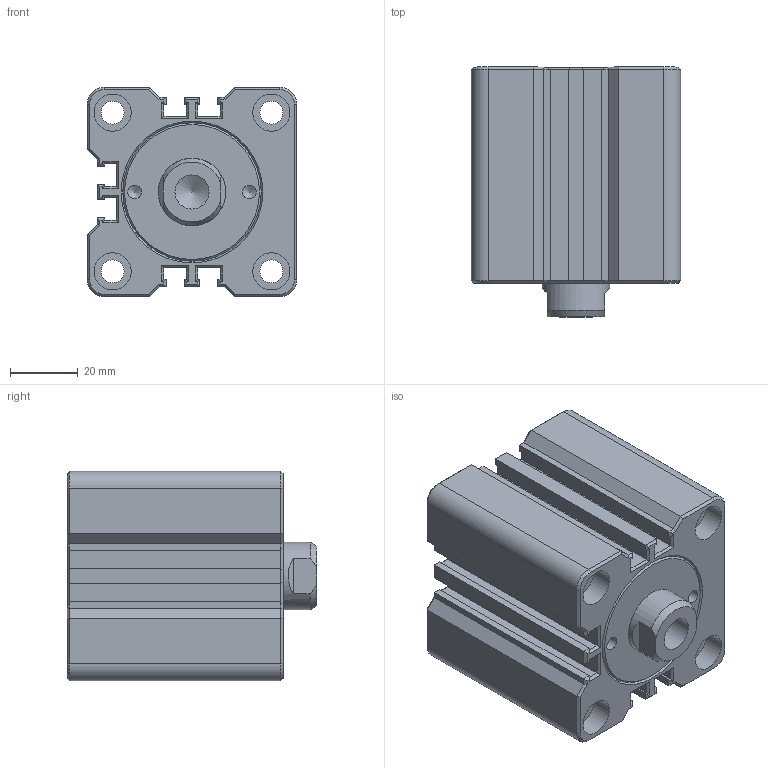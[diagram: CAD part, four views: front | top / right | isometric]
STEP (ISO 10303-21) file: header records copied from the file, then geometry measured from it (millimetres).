
FILE_DESCRIPTION(/* description */ ('Unknown'),/* implementation_level */ '2;1');
FILE_NAME(/* name */ 'HTM70-SD32X10N',/* time_stamp */ '2022-08-31T02:44:11+08:00',/* author */ ('Unknown'),/* organization */ ('Unknown'),/* preprocessor_version */ 'ST-DEVELOPER v16.7',/* originating_system */ 'DEX',/* authorisation */ $);
FILE_SCHEMA (('AUTOMOTIVE_DESIGN {1 0 10303 214 3 1 1}'));
Length unit declared in the file: millimetre
Products named in the file (1): HTM70-SD32X10N
Bounding box: 62 x 74 x 62 mm (x, y, z)
Volume: 204786.1 mm3; surface area: 35782 mm2
Topology: 1 solids, 1 shells, 271 faces, 624 edges, 369 vertices
Faces by surface type: plane 212, cone 24, cylinder 23, bspline 12
Full cylindrical faces by diameter (mm): 4.1 x2, 6 x1, 6.8 x4, 10.106 x1, 11 x8, 12.301 x2, 20 x1
Entity records: 9223 total; most frequent: CARTESIAN_POINT 1451, ORIENTED_EDGE 1170, DIRECTION 1148, EDGE_CURVE 585, LINE 474, VECTOR 474, VERTEX_POINT 360, AXIS2_PLACEMENT_3D 337
